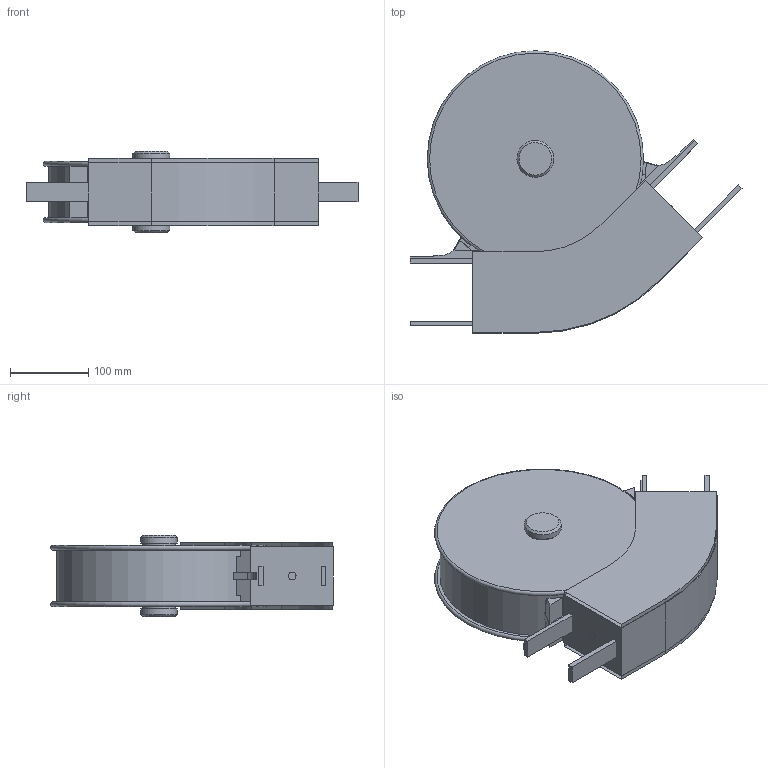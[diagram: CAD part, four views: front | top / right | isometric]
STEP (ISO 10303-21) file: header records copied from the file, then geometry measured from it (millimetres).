
FILE_DESCRIPTION(/* description */ ('Bogenrad 45°'),/* implementation_level */ '2;1');
FILE_NAME(/* name */ 'T:\vdz0\Step Daten Website\modulflex FH-System\Bogenräder\FHBH 45R170 A_44019.stp',/* time_stamp */ '2024-09-03T10:54:24+02:00',/* author */ ('lzb0'),/* organization */ ('modular automation GmbH'),/* preprocessor_version */ 'ST-DEVELOPER v18.1',/* originating_system */ 'Autodesk Inventor 2021',/* authorisation */ '');
FILE_SCHEMA (('AUTOMOTIVE_DESIGN { 1 0 10303 214 3 1 1 }'));
Length unit declared in the file: millimetre
Products named in the file (1): FHBH 45R170 A
Bounding box: 423.75 x 360.5 x 104 mm (x, y, z)
Volume: 6763832.5 mm3; surface area: 503200.3 mm2
Topology: 8 solids, 12 shells, 123 faces, 289 edges, 192 vertices
Faces by surface type: plane 104, cylinder 15, cone 2, torus 2
Full cylindrical faces by diameter (mm): 10 x2, 42 x2, 47 x2, 262 x1
Entity records: 3581 total; most frequent: CARTESIAN_POINT 612, DIRECTION 577, ORIENTED_EDGE 558, EDGE_CURVE 289, LINE 251, VECTOR 251, VERTEX_POINT 192, AXIS2_PLACEMENT_3D 163
